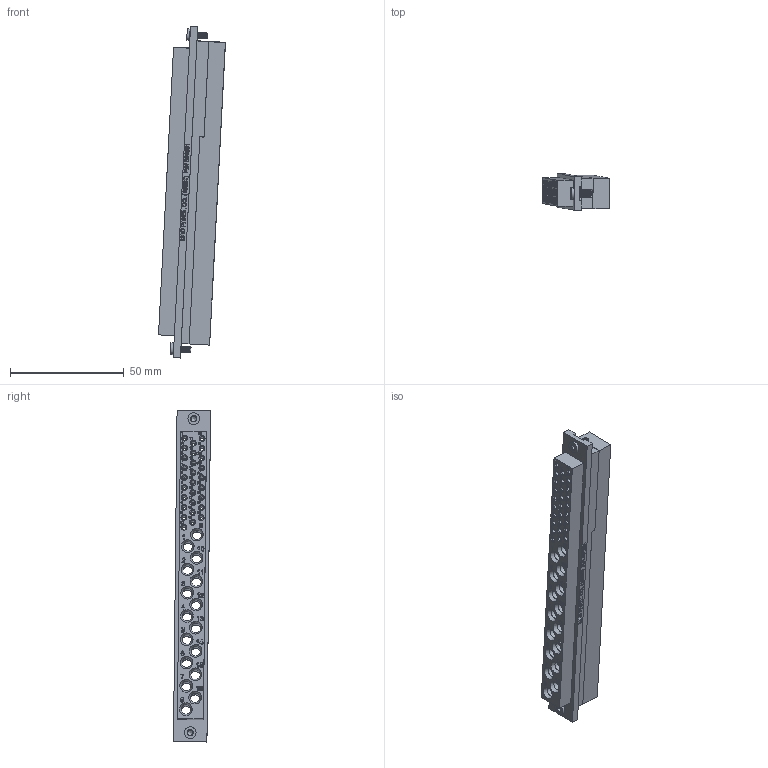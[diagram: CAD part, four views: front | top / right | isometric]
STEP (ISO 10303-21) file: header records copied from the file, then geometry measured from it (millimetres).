
FILE_DESCRIPTION((''),'2;1');
FILE_NAME('C:\old_Drawings\shrinkwrapped website .stp files\561301-STP.stp','2011-05-18T15:17:55',('GaryRobinson'),(''),'Autodesk Inventor 2011','Autodesk Inventor 2011','');
FILE_SCHEMA(('CONFIG_CONTROL_DESIGN'));
Length unit declared in the file: inch
Products named in the file (1): 561301-STP
Bounding box: 29.48 x 16.33 x 146.17 mm (x, y, z)
Surface area: 22261.1 mm2 (no closed solid volume)
Topology: 0 solids, 38 shells, 248 faces, 2569 edges, 2354 vertices
Faces by surface type: cylinder 114, plane 77, cone 53, bspline 4
Full cylindrical faces by diameter (mm): 1.829 x28, 2.07 x28, 2.845 x12, 3.81 x3, 3.962 x2, 4.242 x16, 4.674 x16, 5.08 x2
Entity records: 24403 total; most frequent: CARTESIAN_POINT 9100, ORIENTED_EDGE 2637, EDGE_CURVE 2288, VERTEX_POINT 2235, DIRECTION 1976, QUASI_UNIFORM_CURVE 1047, VECTOR 896, LINE 896
